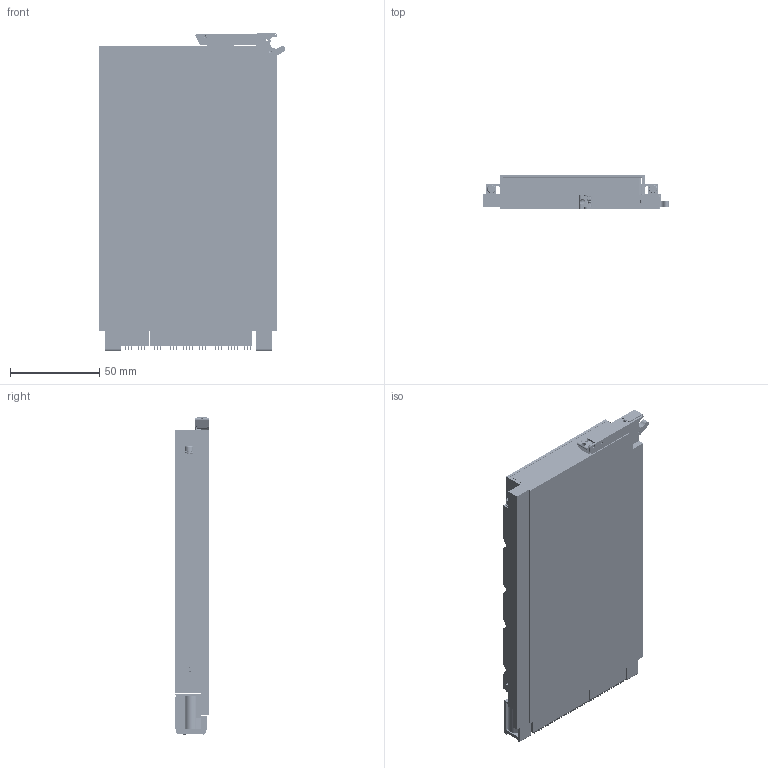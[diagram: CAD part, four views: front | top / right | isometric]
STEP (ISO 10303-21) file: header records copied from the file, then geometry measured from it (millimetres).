
FILE_DESCRIPTION (( 'STEP AP203' ), '1' );
FILE_NAME ('3U-VPX48.2-PS-265HC-311TC.step', '2018-06-15T21:00:55', ( '' ), ( '' ), 'SwSTEP 2.0', 'SolidWorks 2014', '' );
FILE_SCHEMA (( 'CONFIG_CONTROL_DESIGN' ));
Length unit declared in the file: inch
Products named in the file (1): 3U-VPX48.2-PS-265HC-311TC
Bounding box: 104.37 x 19.58 x 177.74 mm (x, y, z)
Volume: 257444 mm3; surface area: 220546.2 mm2
Topology: 306 solids, 306 shells, 21789 faces, 61178 edges, 39662 vertices
Faces by surface type: plane 17862, cylinder 2742, bspline 1004, cone 175, torus 6
Entity records: 744622 total; most frequent: CARTESIAN_POINT 191723, ORIENTED_EDGE 118688, DIRECTION 105498, EDGE_CURVE 59344, VECTOR 51176, LINE 51176, VERTEX_POINT 39662, AXIS2_PLACEMENT_3D 27161
